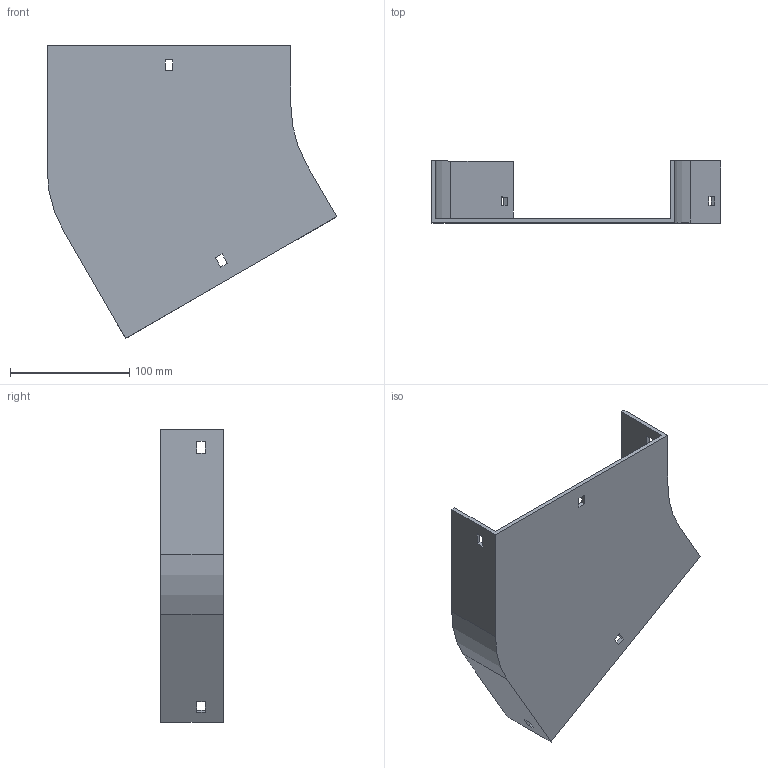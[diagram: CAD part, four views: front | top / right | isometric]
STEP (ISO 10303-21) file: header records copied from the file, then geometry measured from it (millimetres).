
FILE_DESCRIPTION (( 'STEP AP214' ), '1' );
FILE_NAME ('12B1B200.step', '2025-02-21T09:34:29', ( '' ), ( '' ), 'SwSTEP 2.0', 'SolidWorks 2023', '' );
FILE_SCHEMA (( 'AUTOMOTIVE_DESIGN' ));
Length unit declared in the file: millimetre
Products named in the file (1): 12B1B200
Bounding box: 242.4 x 52 x 245.3 mm (x, y, z)
Volume: 217585.9 mm3; surface area: 128583.9 mm2
Topology: 1 solids, 1 shells, 42 faces, 120 edges, 80 vertices
Faces by surface type: plane 38, cylinder 4
Entity records: 1399 total; most frequent: CARTESIAN_POINT 243, ORIENTED_EDGE 240, DIRECTION 214, EDGE_CURVE 120, LINE 112, VECTOR 112, VERTEX_POINT 80, EDGE_LOOP 54
